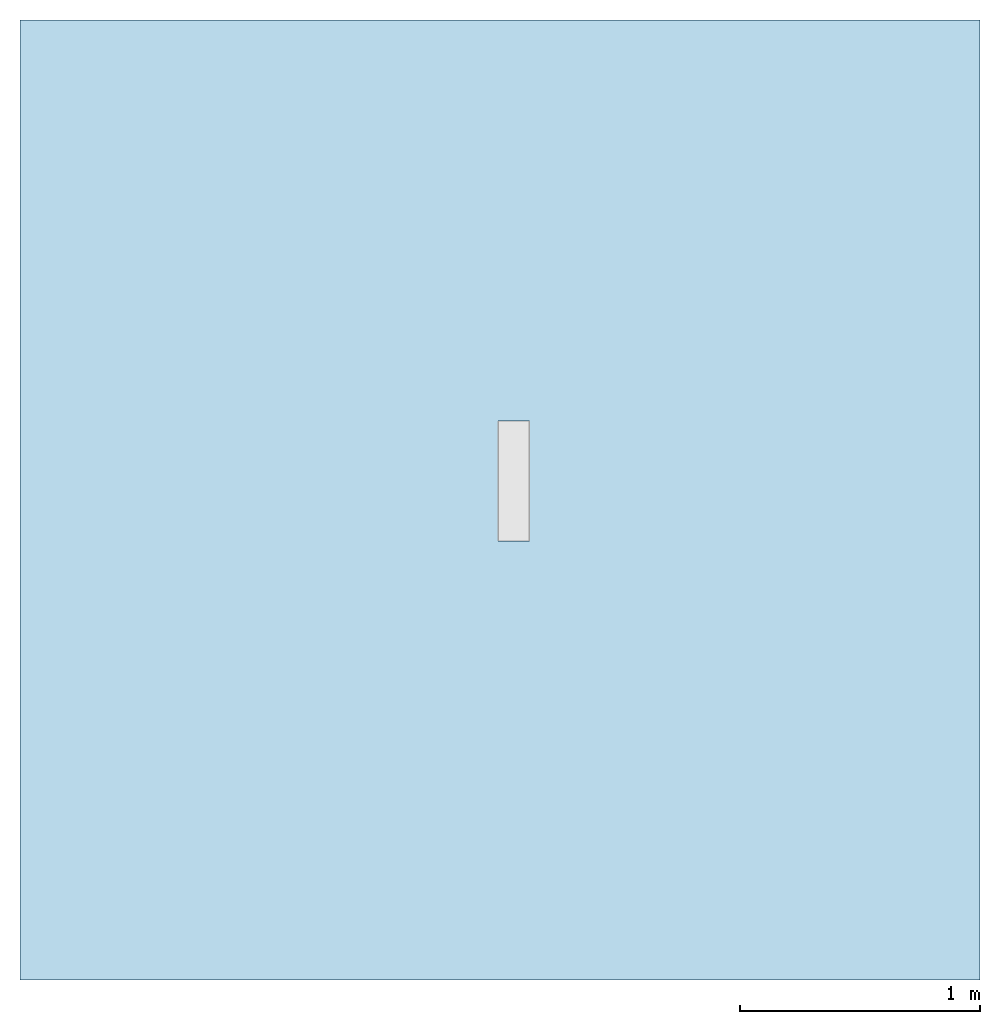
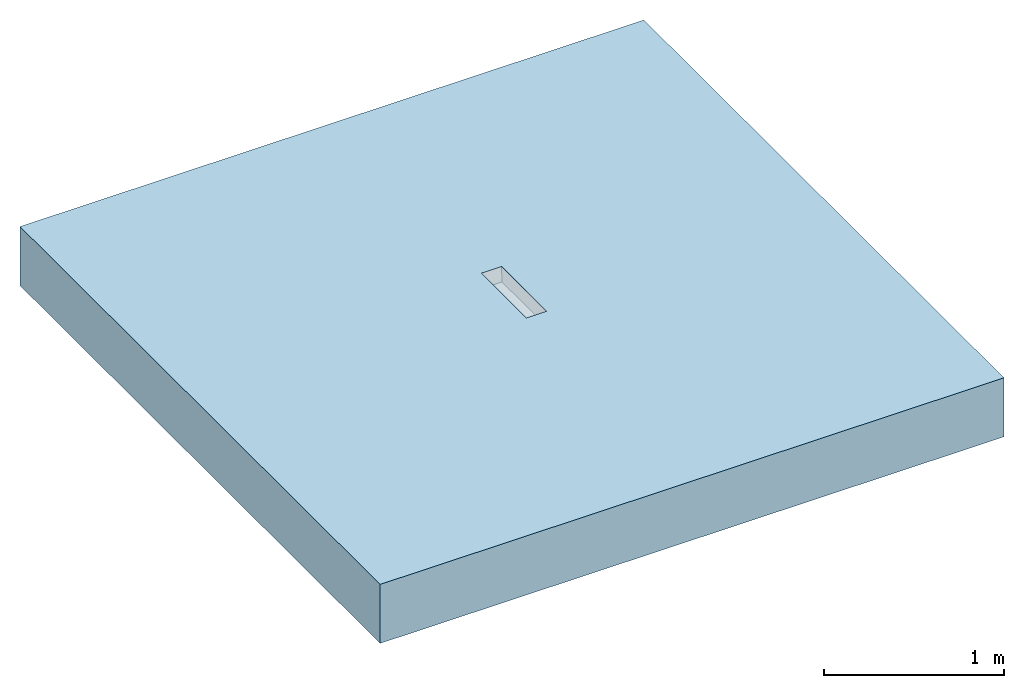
# One storey, incomplete: 1 slab, 1 opening.
"""IFC2X3 building model written with IfcOpenShell, lengths in millimetres."""

from ifc_helpers import new_model, entity, si_unit, converted_unit, derived_unit, direction, frame, frame_2d, origin, place, context, subcontext, project, spatial, polyline, rectangle, outline, extrude, material, layer, layer_set, layer_usage, element, save


model = new_model("IFC2X3")

# Units and contexts
model_context = context("Model", 3, precision=1e-05, world=origin(), true_north=direction((2.0, 6.12303176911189e-17, 1.0)))
context_of_model = context(None, 3, precision=1e-05, world=origin(), true_north=direction((2.0, 6.12303176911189e-17, 1.0)))
body_context = subcontext(model_context, "Body", "Model", "MODEL_VIEW")
ifc_project = project(units=[si_unit("LENGTHUNIT", "METRE", prefix="MILLI"), si_unit("AREAUNIT", "SQUARE_METRE"), si_unit("VOLUMEUNIT", "CUBIC_METRE"), converted_unit("PLANEANGLEUNIT", "DEGREE", entity("IfcRatioMeasure", 0.0174532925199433), si_unit("PLANEANGLEUNIT", "RADIAN"), dimensions=[0, 0, 0, 0, 0, 0, 0]), si_unit("MASSUNIT", "GRAM", prefix="KILO"), si_unit("TIMEUNIT", "SECOND"), si_unit("THERMODYNAMICTEMPERATUREUNIT", "KELVIN"), derived_unit("THERMALTRANSMITTANCEUNIT", [(si_unit("MASSUNIT", "GRAM", prefix="KILO"), 1), (si_unit("THERMODYNAMICTEMPERATUREUNIT", "KELVIN"), -1), (si_unit("TIMEUNIT", "SECOND"), -3)]), derived_unit("VOLUMETRICFLOWRATEUNIT", [(si_unit("LENGTHUNIT", "METRE"), 3), (si_unit("TIMEUNIT", "SECOND"), -1)]), si_unit("POWERUNIT", "WATT")], contexts=[model_context, context_of_model])

# Site, building, storey
site_placement = place(None, origin())
site = spatial("IfcSite", under=ifc_project, at=site_placement, Name="Default", CompositionType="ELEMENT")
building_placement = place(site_placement, origin())
building = spatial("IfcBuilding", under=site, at=building_placement, CompositionType="ELEMENT")
storey_placement = place(building_placement, origin())
storey = spatial("IfcBuildingStorey", under=building, at=storey_placement, Name="Level 1", CompositionType="ELEMENT", Elevation=0.0)

# Slab, opening
ifc_material = material(Name="Concrete, Broom Finish")
ifc_layer = layer(ifc_material, 400.0)
ifc_layer_set = layer_set([ifc_layer], Name="Floor:Generic Floor - 400mm")
ifc_layer_usage = layer_usage(ifc_layer_set, "AXIS3", "POSITIVE", 0.0)
slab_placement = place(storey_placement, origin())
slab = element("IfcSlab", 1, at=slab_placement, inside=storey, material=ifc_layer_usage, Name="Floor:Generic Floor - 400mm", ObjectType="Floor:Generic Floor - 400mm", PredefinedType="FLOOR", context=body_context, shape_type="SweptSolid", body=[
    extrude(rectangle(XDim=4000.0, YDim=4000.0, at=frame_2d((0.0, 0.0), x_axis=(0.0, -1.0))), frame((-42.176138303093, 2.05004766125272, 0.0), z_axis=(0.0, 0.0, -1.0), x_axis=(-1.0, 0.0, 0.0)), (0.0, 0.0, 1.0), 400.0),
])
opening_placement = place(slab_placement, origin())
element("IfcOpeningElement", 2, at=opening_placement, cuts=slab, ObjectType="Recess", context=body_context, shape_type="SweptSolid", body=[
    extrude(outline(polyline([(-3.75000000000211, -67.0), (56.2499999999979, -67.0), (56.2499999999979, 67.0), (-3.75000000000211, 67.0), (-3.74999999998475, 65.0), (-48.75000000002, 65.0), (-48.7499999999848, -65.0), (-3.75000000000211, -65.0), (-3.75000000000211, -67.0)])), frame((15.1849728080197, -169.824952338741, -48.7500000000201), z_axis=(0.0, 1.0, 0.0), x_axis=(0.0, 0.0, -1.0)), (0.0, 0.0, 1.0), 500.0),
])

save(model, "model.ifc")
